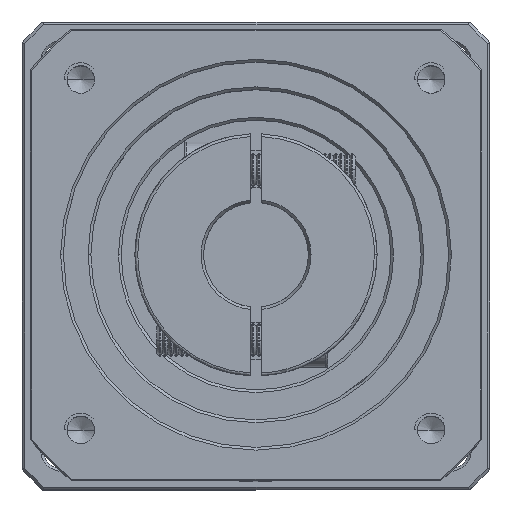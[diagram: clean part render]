
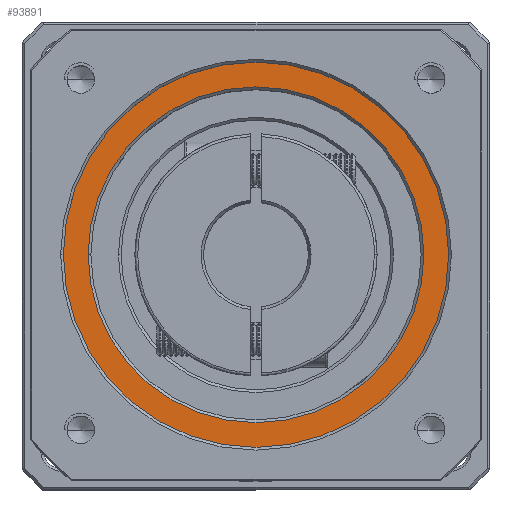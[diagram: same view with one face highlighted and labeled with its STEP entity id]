
A CAD part, top view. The second image highlights one B-rep face of the part: STEP entity #93891.
In plain terms, the highlighted planar face has unit normal (0, 0, 1).
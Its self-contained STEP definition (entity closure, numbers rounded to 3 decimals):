
#9212 = DIRECTION ( 'NONE',  ( 1., 0., 0. ) ) ;
#13671 = ORIENTED_EDGE ( 'NONE', *, *, #81766, .T. ) ;
#14023 = VERTEX_POINT ( 'NONE', #70116 ) ;
#17129 = CARTESIAN_POINT ( 'NONE',  ( -50.756, 39.269, -4.755 ) ) ;
#19153 = DIRECTION ( 'NONE',  ( 0., 0., -1. ) ) ;
#21152 = DIRECTION ( 'NONE',  ( 0., 0., -1. ) ) ;
#21998 = CARTESIAN_POINT ( 'NONE',  ( -50.756, 39.269, -4.755 ) ) ;
#23616 = DIRECTION ( 'NONE',  ( 0., 0., 1. ) ) ;
#29701 = AXIS2_PLACEMENT_3D ( 'NONE', #21998, #21152, #80146 ) ;
#34158 = CIRCLE ( 'NONE', #63228, 35. ) ;
#35603 = VERTEX_POINT ( 'NONE', #66576 ) ;
#36841 = CARTESIAN_POINT ( 'NONE',  ( -50.756, 39.269, -4.755 ) ) ;
#38309 = DIRECTION ( 'NONE',  ( 1., 0., 0. ) ) ;
#41141 = EDGE_LOOP ( 'NONE', ( #77950, #85955 ) ) ;
#43281 = CIRCLE ( 'NONE', #29701, 30.5 ) ;
#44763 = AXIS2_PLACEMENT_3D ( 'NONE', #17129, #77358, #38309 ) ;
#63228 = AXIS2_PLACEMENT_3D ( 'NONE', #83013, #23616, #124337 ) ;
#64941 = AXIS2_PLACEMENT_3D ( 'NONE', #36841, #106232, #96687 ) ;
#66484 = CARTESIAN_POINT ( 'NONE',  ( -81.256, 39.269, -4.755 ) ) ;
#66576 = CARTESIAN_POINT ( 'NONE',  ( -15.756, 39.269, -4.755 ) ) ;
#66705 = AXIS2_PLACEMENT_3D ( 'NONE', #78136, #19153, #9212 ) ;
#69381 = FACE_OUTER_BOUND ( 'NONE', #41141, .T. ) ;
#70116 = CARTESIAN_POINT ( 'NONE',  ( -85.756, 39.269, -4.755 ) ) ;
#73094 = CIRCLE ( 'NONE', #66705, 30.5 ) ;
#74287 = EDGE_CURVE ( 'NONE', #96389, #107608, #73094, .T. ) ;
#77358 = DIRECTION ( 'NONE',  ( 0., 0., 1. ) ) ;
#77950 = ORIENTED_EDGE ( 'NONE', *, *, #100230, .T. ) ;
#78136 = CARTESIAN_POINT ( 'NONE',  ( -50.756, 39.269, -4.755 ) ) ;
#80146 = DIRECTION ( 'NONE',  ( 1., 0., 0. ) ) ;
#81766 = EDGE_CURVE ( 'NONE', #107608, #96389, #43281, .T. ) ;
#83013 = CARTESIAN_POINT ( 'NONE',  ( -50.756, 39.269, -4.755 ) ) ;
#83807 = CIRCLE ( 'NONE', #64941, 35. ) ;
#85955 = ORIENTED_EDGE ( 'NONE', *, *, #100946, .T. ) ;
#87061 = EDGE_LOOP ( 'NONE', ( #13671, #107144 ) ) ;
#93891 = ADVANCED_FACE ( 'NONE', ( #69381, #125390 ), #96858, .T. ) ;
#96389 = VERTEX_POINT ( 'NONE', #66484 ) ;
#96687 = DIRECTION ( 'NONE',  ( 1., 0., 0. ) ) ;
#96858 = PLANE ( 'NONE',  #44763 ) ;
#99229 = CARTESIAN_POINT ( 'NONE',  ( -20.256, 39.269, -4.755 ) ) ;
#100230 = EDGE_CURVE ( 'NONE', #35603, #14023, #34158, .T. ) ;
#100946 = EDGE_CURVE ( 'NONE', #14023, #35603, #83807, .T. ) ;
#106232 = DIRECTION ( 'NONE',  ( 0., 0., 1. ) ) ;
#107144 = ORIENTED_EDGE ( 'NONE', *, *, #74287, .T. ) ;
#107608 = VERTEX_POINT ( 'NONE', #99229 ) ;
#124337 = DIRECTION ( 'NONE',  ( 1., 0., 0. ) ) ;
#125390 = FACE_BOUND ( 'NONE', #87061, .T. ) ;
